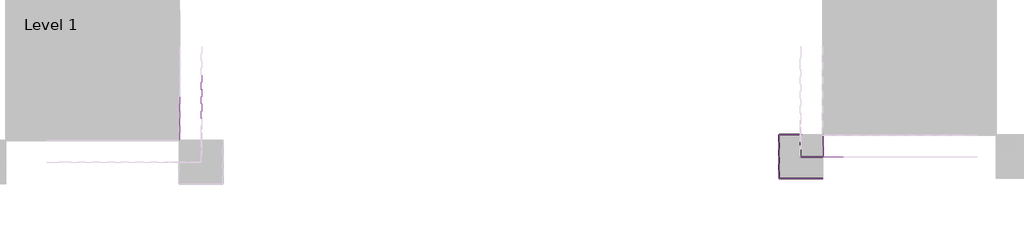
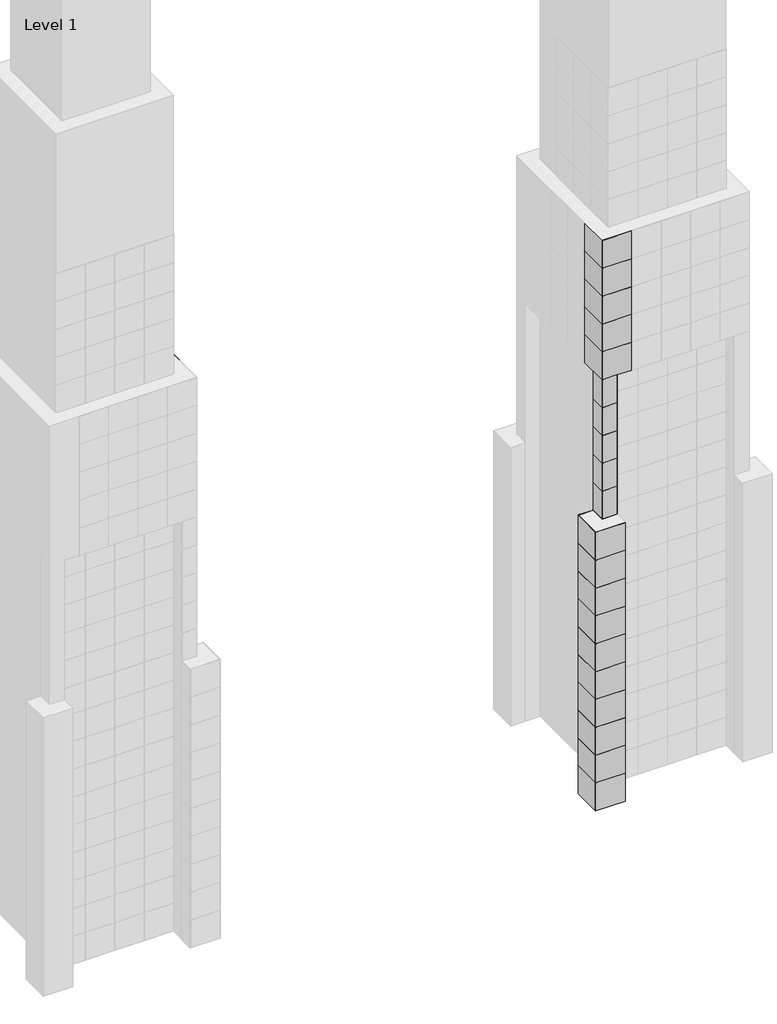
# One storey, part 4 of 15: 138 plates.
"""IFC4 building model written with IfcOpenShell, lengths in millimetres."""

from ifc_helpers import new_model, si_unit, origin, place, context, project, spatial, transform, mapped, element, save
from components import system_panel_glazed_9c75bc08, system_panel_glazed_0a0842ec, system_panel_glazed_aa64d645, system_panel_glazed_b248394d, system_panel_glazed_d5d3c74f

model = new_model("IFC4")

# Units and contexts
model_context = context("Model", 3, world=origin())
ifc_project = project(units=[si_unit("LENGTHUNIT", "METRE", prefix="MILLI")], contexts=[model_context])

# Site, building, storey
site = spatial("IfcSite", under=ifc_project)
building = spatial("IfcBuilding", under=site)
storey = spatial("IfcBuildingStorey", under=building, Name="Level 1", Elevation=0.0)

# Plates
placement = place(None, origin())
system_panel_glazed_shape = system_panel_glazed_9c75bc08(model_context)
element("IfcPlate", 1, ObjectType="System Panel : Glazed", at=placement, inside=storey, context=model_context, shape_type="MappedRepresentation", body=[
    mapped(system_panel_glazed_shape, transform((37356.2903978, -5364.9095598, 0.0), x_axis=(1.0, 0.0, 0.0), y_axis=(0.0, 1.0, 0.0), z_axis=(0.0, 0.0, 1.0))),
])
element("IfcPlate", 2, ObjectType="System Panel : Glazed", at=placement, inside=storey, context=model_context, shape_type="MappedRepresentation", body=[
    mapped(system_panel_glazed_shape, transform((37356.2903978, -5364.9095598, 3048.0), x_axis=(1.0, 0.0, 0.0), y_axis=(0.0, 1.0, 0.0), z_axis=(0.0, 0.0, 1.0))),
])
element("IfcPlate", 3, ObjectType="System Panel : Glazed", at=placement, inside=storey, context=model_context, shape_type="MappedRepresentation", body=[
    mapped(system_panel_glazed_shape, transform((37356.2903978, -5364.9095598, 6096.0), x_axis=(1.0, 0.0, 0.0), y_axis=(0.0, 1.0, 0.0), z_axis=(0.0, 0.0, 1.0))),
])
element("IfcPlate", 4, ObjectType="System Panel : Glazed", at=placement, inside=storey, context=model_context, shape_type="MappedRepresentation", body=[
    mapped(system_panel_glazed_shape, transform((37356.2903978, -5364.9095598, 9144.0), x_axis=(1.0, 0.0, 0.0), y_axis=(0.0, 1.0, 0.0), z_axis=(0.0, 0.0, 1.0))),
])
element("IfcPlate", 5, ObjectType="System Panel : Glazed", at=placement, inside=storey, context=model_context, shape_type="MappedRepresentation", body=[
    mapped(system_panel_glazed_shape, transform((37356.2903978, -5364.9095598, 12192.0), x_axis=(1.0, 0.0, 0.0), y_axis=(0.0, 1.0, 0.0), z_axis=(0.0, 0.0, 1.0))),
])
element("IfcPlate", 6, ObjectType="System Panel : Glazed", at=placement, inside=storey, context=model_context, shape_type="MappedRepresentation", body=[
    mapped(system_panel_glazed_shape, transform((37356.2903978, -5364.9095598, 15240.0), x_axis=(1.0, 0.0, 0.0), y_axis=(0.0, 1.0, 0.0), z_axis=(0.0, 0.0, 1.0))),
])
element("IfcPlate", 7, ObjectType="System Panel : Glazed", at=placement, inside=storey, context=model_context, shape_type="MappedRepresentation", body=[
    mapped(system_panel_glazed_shape, transform((37356.2903978, -5364.9095598, 18288.0), x_axis=(1.0, 0.0, 0.0), y_axis=(0.0, 1.0, 0.0), z_axis=(0.0, 0.0, 1.0))),
])
element("IfcPlate", 8, ObjectType="System Panel : Glazed", at=placement, inside=storey, context=model_context, shape_type="MappedRepresentation", body=[
    mapped(system_panel_glazed_shape, transform((37356.2903978, -5364.9095598, 21336.0), x_axis=(1.0, 0.0, 0.0), y_axis=(0.0, 1.0, 0.0), z_axis=(0.0, 0.0, 1.0))),
])
element("IfcPlate", 9, ObjectType="System Panel : Glazed", at=placement, inside=storey, context=model_context, shape_type="MappedRepresentation", body=[
    mapped(system_panel_glazed_shape, transform((37356.2903978, -5364.9095598, 24384.0), x_axis=(1.0, 0.0, 0.0), y_axis=(0.0, 1.0, 0.0), z_axis=(0.0, 0.0, 1.0))),
])
element("IfcPlate", 10, ObjectType="System Panel : Glazed", at=placement, inside=storey, context=model_context, shape_type="MappedRepresentation", body=[
    mapped(system_panel_glazed_shape, transform((37356.2903978, -5364.9095598, 27432.0), x_axis=(1.0, 0.0, 0.0), y_axis=(0.0, 1.0, 0.0), z_axis=(0.0, 0.0, 1.0))),
])
element("IfcPlate", 11, ObjectType="System Panel : Glazed", at=placement, inside=storey, context=model_context, shape_type="MappedRepresentation", body=[
    mapped(system_panel_glazed_shape, transform((37356.2903978, -5364.9095598, 30480.0), x_axis=(1.0, 0.0, 0.0), y_axis=(0.0, 1.0, 0.0), z_axis=(0.0, 0.0, 1.0))),
])
element("IfcPlate", 12, ObjectType="System Panel : Glazed", at=placement, inside=storey, context=model_context, shape_type="MappedRepresentation", body=[
    mapped(system_panel_glazed_shape, transform((37356.2903978, -5364.9095598, 33528.0), x_axis=(1.0, 0.0, 0.0), y_axis=(0.0, 1.0, 0.0), z_axis=(0.0, 0.0, 1.0))),
])
element("IfcPlate", 13, ObjectType="System Panel : Glazed", at=placement, inside=storey, context=model_context, shape_type="MappedRepresentation", body=[
    mapped(system_panel_glazed_shape, transform((37356.2903978, -5364.9095598, 36576.0), x_axis=(1.0, 0.0, 0.0), y_axis=(0.0, 1.0, 0.0), z_axis=(0.0, 0.0, 1.0))),
])
element("IfcPlate", 14, ObjectType="System Panel : Glazed", at=placement, inside=storey, context=model_context, shape_type="MappedRepresentation", body=[
    mapped(system_panel_glazed_shape, transform((37356.2903978, -5364.9095598, 39624.0), x_axis=(1.0, 0.0, 0.0), y_axis=(0.0, 1.0, 0.0), z_axis=(0.0, 0.0, 1.0))),
])
element("IfcPlate", 15, ObjectType="System Panel : Glazed", at=placement, inside=storey, context=model_context, shape_type="MappedRepresentation", body=[
    mapped(system_panel_glazed_shape, transform((37356.2903978, -5364.9095598, 42672.0), x_axis=(1.0, 0.0, 0.0), y_axis=(0.0, 1.0, 0.0), z_axis=(0.0, 0.0, 1.0))),
])
element("IfcPlate", 16, ObjectType="System Panel : Glazed", at=placement, inside=storey, context=model_context, shape_type="MappedRepresentation", body=[
    mapped(system_panel_glazed_shape, transform((36594.2903978, -4602.9095598, 0.0), x_axis=(0.0, -1.0, 0.0), y_axis=(1.0, 0.0, 0.0), z_axis=(0.0, 0.0, 1.0))),
])
element("IfcPlate", 17, ObjectType="System Panel : Glazed", at=placement, inside=storey, context=model_context, shape_type="MappedRepresentation", body=[
    mapped(system_panel_glazed_shape, transform((36594.2903978, -4602.9095598, 3048.0), x_axis=(0.0, -1.0, 0.0), y_axis=(1.0, 0.0, 0.0), z_axis=(0.0, 0.0, 1.0))),
])
element("IfcPlate", 18, ObjectType="System Panel : Glazed", at=placement, inside=storey, context=model_context, shape_type="MappedRepresentation", body=[
    mapped(system_panel_glazed_shape, transform((36594.2903978, -4602.9095598, 6096.0), x_axis=(0.0, -1.0, 0.0), y_axis=(1.0, 0.0, 0.0), z_axis=(0.0, 0.0, 1.0))),
])
element("IfcPlate", 19, ObjectType="System Panel : Glazed", at=placement, inside=storey, context=model_context, shape_type="MappedRepresentation", body=[
    mapped(system_panel_glazed_shape, transform((36594.2903978, -4602.9095598, 9144.0), x_axis=(0.0, -1.0, 0.0), y_axis=(1.0, 0.0, 0.0), z_axis=(0.0, 0.0, 1.0))),
])
element("IfcPlate", 20, ObjectType="System Panel : Glazed", at=placement, inside=storey, context=model_context, shape_type="MappedRepresentation", body=[
    mapped(system_panel_glazed_shape, transform((36594.2903978, -4602.9095598, 12192.0), x_axis=(0.0, -1.0, 0.0), y_axis=(1.0, 0.0, 0.0), z_axis=(0.0, 0.0, 1.0))),
])
element("IfcPlate", 21, ObjectType="System Panel : Glazed", at=placement, inside=storey, context=model_context, shape_type="MappedRepresentation", body=[
    mapped(system_panel_glazed_shape, transform((36594.2903978, -4602.9095598, 15240.0), x_axis=(0.0, -1.0, 0.0), y_axis=(1.0, 0.0, 0.0), z_axis=(0.0, 0.0, 1.0))),
])
element("IfcPlate", 22, ObjectType="System Panel : Glazed", at=placement, inside=storey, context=model_context, shape_type="MappedRepresentation", body=[
    mapped(system_panel_glazed_shape, transform((36594.2903978, -4602.9095598, 18288.0), x_axis=(0.0, -1.0, 0.0), y_axis=(1.0, 0.0, 0.0), z_axis=(0.0, 0.0, 1.0))),
])
element("IfcPlate", 23, ObjectType="System Panel : Glazed", at=placement, inside=storey, context=model_context, shape_type="MappedRepresentation", body=[
    mapped(system_panel_glazed_shape, transform((36594.2903978, -4602.9095598, 21336.0), x_axis=(0.0, -1.0, 0.0), y_axis=(1.0, 0.0, 0.0), z_axis=(0.0, 0.0, 1.0))),
])
element("IfcPlate", 24, ObjectType="System Panel : Glazed", at=placement, inside=storey, context=model_context, shape_type="MappedRepresentation", body=[
    mapped(system_panel_glazed_shape, transform((36594.2903978, -4602.9095598, 24384.0), x_axis=(0.0, -1.0, 0.0), y_axis=(1.0, 0.0, 0.0), z_axis=(0.0, 0.0, 1.0))),
])
element("IfcPlate", 25, ObjectType="System Panel : Glazed", at=placement, inside=storey, context=model_context, shape_type="MappedRepresentation", body=[
    mapped(system_panel_glazed_shape, transform((36594.2903978, -4602.9095598, 27432.0), x_axis=(0.0, -1.0, 0.0), y_axis=(1.0, 0.0, 0.0), z_axis=(0.0, 0.0, 1.0))),
])
element("IfcPlate", 26, ObjectType="System Panel : Glazed", at=placement, inside=storey, context=model_context, shape_type="MappedRepresentation", body=[
    mapped(system_panel_glazed_shape, transform((36594.2903978, -4602.9095598, 30480.0), x_axis=(0.0, -1.0, 0.0), y_axis=(1.0, 0.0, 0.0), z_axis=(0.0, 0.0, 1.0))),
])
element("IfcPlate", 27, ObjectType="System Panel : Glazed", at=placement, inside=storey, context=model_context, shape_type="MappedRepresentation", body=[
    mapped(system_panel_glazed_shape, transform((36594.2903978, -4602.9095598, 33528.0), x_axis=(0.0, -1.0, 0.0), y_axis=(1.0, 0.0, 0.0), z_axis=(0.0, 0.0, 1.0))),
])
element("IfcPlate", 28, ObjectType="System Panel : Glazed", at=placement, inside=storey, context=model_context, shape_type="MappedRepresentation", body=[
    mapped(system_panel_glazed_shape, transform((36594.2903978, -4602.9095598, 36576.0), x_axis=(0.0, -1.0, 0.0), y_axis=(1.0, 0.0, 0.0), z_axis=(0.0, 0.0, 1.0))),
])
element("IfcPlate", 29, ObjectType="System Panel : Glazed", at=placement, inside=storey, context=model_context, shape_type="MappedRepresentation", body=[
    mapped(system_panel_glazed_shape, transform((36594.2903978, -4602.9095598, 39624.0), x_axis=(0.0, -1.0, 0.0), y_axis=(1.0, 0.0, 0.0), z_axis=(0.0, 0.0, 1.0))),
])
element("IfcPlate", 30, ObjectType="System Panel : Glazed", at=placement, inside=storey, context=model_context, shape_type="MappedRepresentation", body=[
    mapped(system_panel_glazed_shape, transform((36594.2903978, -4602.9095598, 42672.0), x_axis=(0.0, -1.0, 0.0), y_axis=(1.0, 0.0, 0.0), z_axis=(0.0, 0.0, 1.0))),
])
element("IfcPlate", 31, ObjectType="System Panel : Glazed", at=placement, inside=storey, context=model_context, shape_type="MappedRepresentation", body=[
    mapped(system_panel_glazed_shape, transform((36594.2903978, -4602.9095598, 0.0), x_axis=(0.0, -1.0, 0.0), y_axis=(1.0, 0.0, 0.0), z_axis=(0.0, 0.0, 1.0))),
])
element("IfcPlate", 32, ObjectType="System Panel : Glazed", at=placement, inside=storey, context=model_context, shape_type="MappedRepresentation", body=[
    mapped(system_panel_glazed_shape, transform((36594.2903978, -4602.9095598, 3048.0), x_axis=(0.0, -1.0, 0.0), y_axis=(1.0, 0.0, 0.0), z_axis=(0.0, 0.0, 1.0))),
])
element("IfcPlate", 33, ObjectType="System Panel : Glazed", at=placement, inside=storey, context=model_context, shape_type="MappedRepresentation", body=[
    mapped(system_panel_glazed_shape, transform((36594.2903978, -4602.9095598, 6096.0), x_axis=(0.0, -1.0, 0.0), y_axis=(1.0, 0.0, 0.0), z_axis=(0.0, 0.0, 1.0))),
])
element("IfcPlate", 34, ObjectType="System Panel : Glazed", at=placement, inside=storey, context=model_context, shape_type="MappedRepresentation", body=[
    mapped(system_panel_glazed_shape, transform((36594.2903978, -4602.9095598, 9144.0), x_axis=(0.0, -1.0, 0.0), y_axis=(1.0, 0.0, 0.0), z_axis=(0.0, 0.0, 1.0))),
])
element("IfcPlate", 35, ObjectType="System Panel : Glazed", at=placement, inside=storey, context=model_context, shape_type="MappedRepresentation", body=[
    mapped(system_panel_glazed_shape, transform((36594.2903978, -4602.9095598, 12192.0), x_axis=(0.0, -1.0, 0.0), y_axis=(1.0, 0.0, 0.0), z_axis=(0.0, 0.0, 1.0))),
])
element("IfcPlate", 36, ObjectType="System Panel : Glazed", at=placement, inside=storey, context=model_context, shape_type="MappedRepresentation", body=[
    mapped(system_panel_glazed_shape, transform((36594.2903978, -4602.9095598, 15240.0), x_axis=(0.0, -1.0, 0.0), y_axis=(1.0, 0.0, 0.0), z_axis=(0.0, 0.0, 1.0))),
])
element("IfcPlate", 37, ObjectType="System Panel : Glazed", at=placement, inside=storey, context=model_context, shape_type="MappedRepresentation", body=[
    mapped(system_panel_glazed_shape, transform((36594.2903978, -4602.9095598, 18288.0), x_axis=(0.0, -1.0, 0.0), y_axis=(1.0, 0.0, 0.0), z_axis=(0.0, 0.0, 1.0))),
])
element("IfcPlate", 38, ObjectType="System Panel : Glazed", at=placement, inside=storey, context=model_context, shape_type="MappedRepresentation", body=[
    mapped(system_panel_glazed_shape, transform((36594.2903978, -4602.9095598, 21336.0), x_axis=(0.0, -1.0, 0.0), y_axis=(1.0, 0.0, 0.0), z_axis=(0.0, 0.0, 1.0))),
])
element("IfcPlate", 39, ObjectType="System Panel : Glazed", at=placement, inside=storey, context=model_context, shape_type="MappedRepresentation", body=[
    mapped(system_panel_glazed_shape, transform((36594.2903978, -4602.9095598, 24384.0), x_axis=(0.0, -1.0, 0.0), y_axis=(1.0, 0.0, 0.0), z_axis=(0.0, 0.0, 1.0))),
])
element("IfcPlate", 40, ObjectType="System Panel : Glazed", at=placement, inside=storey, context=model_context, shape_type="MappedRepresentation", body=[
    mapped(system_panel_glazed_shape, transform((36594.2903978, -4602.9095598, 27432.0), x_axis=(0.0, -1.0, 0.0), y_axis=(1.0, 0.0, 0.0), z_axis=(0.0, 0.0, 1.0))),
])
element("IfcPlate", 41, ObjectType="System Panel : Glazed", at=placement, inside=storey, context=model_context, shape_type="MappedRepresentation", body=[
    mapped(system_panel_glazed_shape, transform((36594.2903978, -4602.9095598, 30480.0), x_axis=(0.0, -1.0, 0.0), y_axis=(1.0, 0.0, 0.0), z_axis=(0.0, 0.0, 1.0))),
])
element("IfcPlate", 42, ObjectType="System Panel : Glazed", at=placement, inside=storey, context=model_context, shape_type="MappedRepresentation", body=[
    mapped(system_panel_glazed_shape, transform((36594.2903978, -4602.9095598, 33528.0), x_axis=(0.0, -1.0, 0.0), y_axis=(1.0, 0.0, 0.0), z_axis=(0.0, 0.0, 1.0))),
])
element("IfcPlate", 43, ObjectType="System Panel : Glazed", at=placement, inside=storey, context=model_context, shape_type="MappedRepresentation", body=[
    mapped(system_panel_glazed_shape, transform((36594.2903978, -4602.9095598, 36576.0), x_axis=(0.0, -1.0, 0.0), y_axis=(1.0, 0.0, 0.0), z_axis=(0.0, 0.0, 1.0))),
])
element("IfcPlate", 44, ObjectType="System Panel : Glazed", at=placement, inside=storey, context=model_context, shape_type="MappedRepresentation", body=[
    mapped(system_panel_glazed_shape, transform((36594.2903978, -4602.9095598, 39624.0), x_axis=(0.0, -1.0, 0.0), y_axis=(1.0, 0.0, 0.0), z_axis=(0.0, 0.0, 1.0))),
])
element("IfcPlate", 45, ObjectType="System Panel : Glazed", at=placement, inside=storey, context=model_context, shape_type="MappedRepresentation", body=[
    mapped(system_panel_glazed_shape, transform((36594.2903978, -4602.9095598, 42672.0), x_axis=(0.0, -1.0, 0.0), y_axis=(1.0, 0.0, 0.0), z_axis=(0.0, 0.0, 1.0))),
])
element("IfcPlate", 46, ObjectType="System Panel : Glazed", at=placement, inside=storey, context=model_context, shape_type="MappedRepresentation", body=[
    mapped(system_panel_glazed_shape, transform((35832.2903978, -3840.9095598, 0.0), x_axis=(-1.0, 0.0, 0.0), y_axis=(0.0, -1.0, 0.0), z_axis=(0.0, 0.0, 1.0))),
])
element("IfcPlate", 47, ObjectType="System Panel : Glazed", at=placement, inside=storey, context=model_context, shape_type="MappedRepresentation", body=[
    mapped(system_panel_glazed_shape, transform((35832.2903978, -3840.9095598, 3048.0), x_axis=(-1.0, 0.0, 0.0), y_axis=(0.0, -1.0, 0.0), z_axis=(0.0, 0.0, 1.0))),
])
element("IfcPlate", 48, ObjectType="System Panel : Glazed", at=placement, inside=storey, context=model_context, shape_type="MappedRepresentation", body=[
    mapped(system_panel_glazed_shape, transform((35832.2903978, -3840.9095598, 6096.0), x_axis=(-1.0, 0.0, 0.0), y_axis=(0.0, -1.0, 0.0), z_axis=(0.0, 0.0, 1.0))),
])
element("IfcPlate", 49, ObjectType="System Panel : Glazed", at=placement, inside=storey, context=model_context, shape_type="MappedRepresentation", body=[
    mapped(system_panel_glazed_shape, transform((35832.2903978, -3840.9095598, 9144.0), x_axis=(-1.0, 0.0, 0.0), y_axis=(0.0, -1.0, 0.0), z_axis=(0.0, 0.0, 1.0))),
])
element("IfcPlate", 50, ObjectType="System Panel : Glazed", at=placement, inside=storey, context=model_context, shape_type="MappedRepresentation", body=[
    mapped(system_panel_glazed_shape, transform((35832.2903978, -3840.9095598, 12192.0), x_axis=(-1.0, 0.0, 0.0), y_axis=(0.0, -1.0, 0.0), z_axis=(0.0, 0.0, 1.0))),
])
element("IfcPlate", 51, ObjectType="System Panel : Glazed", at=placement, inside=storey, context=model_context, shape_type="MappedRepresentation", body=[
    mapped(system_panel_glazed_shape, transform((35832.2903978, -3840.9095598, 15240.0), x_axis=(-1.0, 0.0, 0.0), y_axis=(0.0, -1.0, 0.0), z_axis=(0.0, 0.0, 1.0))),
])
element("IfcPlate", 52, ObjectType="System Panel : Glazed", at=placement, inside=storey, context=model_context, shape_type="MappedRepresentation", body=[
    mapped(system_panel_glazed_shape, transform((35832.2903978, -3840.9095598, 18288.0), x_axis=(-1.0, 0.0, 0.0), y_axis=(0.0, -1.0, 0.0), z_axis=(0.0, 0.0, 1.0))),
])
element("IfcPlate", 53, ObjectType="System Panel : Glazed", at=placement, inside=storey, context=model_context, shape_type="MappedRepresentation", body=[
    mapped(system_panel_glazed_shape, transform((35832.2903978, -3840.9095598, 21336.0), x_axis=(-1.0, 0.0, 0.0), y_axis=(0.0, -1.0, 0.0), z_axis=(0.0, 0.0, 1.0))),
])
element("IfcPlate", 54, ObjectType="System Panel : Glazed", at=placement, inside=storey, context=model_context, shape_type="MappedRepresentation", body=[
    mapped(system_panel_glazed_shape, transform((35832.2903978, -3840.9095598, 24384.0), x_axis=(-1.0, 0.0, 0.0), y_axis=(0.0, -1.0, 0.0), z_axis=(0.0, 0.0, 1.0))),
])
element("IfcPlate", 55, ObjectType="System Panel : Glazed", at=placement, inside=storey, context=model_context, shape_type="MappedRepresentation", body=[
    mapped(system_panel_glazed_shape, transform((35832.2903978, -3840.9095598, 27432.0), x_axis=(-1.0, 0.0, 0.0), y_axis=(0.0, -1.0, 0.0), z_axis=(0.0, 0.0, 1.0))),
])
system_panel_glazed_2_shape = system_panel_glazed_0a0842ec(model_context)
element("IfcPlate", 56, ObjectType="System Panel : Glazed", at=placement, inside=storey, context=model_context, shape_type="MappedRepresentation", body=[
    mapped(system_panel_glazed_2_shape, transform((38118.2903978, -5364.9095598, 45720.0), x_axis=(1.0, 0.0, 0.0), y_axis=(0.0, 1.0, 0.0), z_axis=(0.0, 0.0, 1.0))),
])
element("IfcPlate", 57, ObjectType="System Panel : Glazed", at=placement, inside=storey, context=model_context, shape_type="MappedRepresentation", body=[
    mapped(system_panel_glazed_2_shape, transform((36594.2903978, -3840.9095598, 45720.0), x_axis=(0.0, -1.0, 0.0), y_axis=(1.0, 0.0, 0.0), z_axis=(0.0, 0.0, 1.0))),
])
system_panel_glazed_3_shape = system_panel_glazed_aa64d645(model_context)
element("IfcPlate", 58, ObjectType="System Panel : Glazed", at=placement, inside=storey, context=model_context, shape_type="MappedRepresentation", body=[
    mapped(system_panel_glazed_3_shape, transform((-5599.4161695, -1170.0504489, 45720.0), x_axis=(0.0, 1.0, 0.0), y_axis=(-1.0, 0.0, 0.0), z_axis=(0.0, 0.0, 1.0))),
])
element("IfcPlate", 59, ObjectType="System Panel : Glazed", at=placement, inside=storey, context=model_context, shape_type="MappedRepresentation", body=[
    mapped(system_panel_glazed_3_shape, transform((-5599.4161695, -1170.0504489, 48768.0), x_axis=(0.0, 1.0, 0.0), y_axis=(-1.0, 0.0, 0.0), z_axis=(0.0, 0.0, 1.0))),
])
element("IfcPlate", 60, ObjectType="System Panel : Glazed", at=placement, inside=storey, context=model_context, shape_type="MappedRepresentation", body=[
    mapped(system_panel_glazed_3_shape, transform((-5599.4161695, -1170.0504489, 51816.0), x_axis=(0.0, 1.0, 0.0), y_axis=(-1.0, 0.0, 0.0), z_axis=(0.0, 0.0, 1.0))),
])
element("IfcPlate", 61, ObjectType="System Panel : Glazed", at=placement, inside=storey, context=model_context, shape_type="MappedRepresentation", body=[
    mapped(system_panel_glazed_3_shape, transform((-5599.4161695, -1170.0504489, 54864.0), x_axis=(0.0, 1.0, 0.0), y_axis=(-1.0, 0.0, 0.0), z_axis=(0.0, 0.0, 1.0))),
])
element("IfcPlate", 62, ObjectType="System Panel : Glazed", at=placement, inside=storey, context=model_context, shape_type="MappedRepresentation", body=[
    mapped(system_panel_glazed_3_shape, transform((-5599.4161695, -1170.0504489, 57912.0), x_axis=(0.0, 1.0, 0.0), y_axis=(-1.0, 0.0, 0.0), z_axis=(0.0, 0.0, 1.0))),
])
element("IfcPlate", 63, ObjectType="System Panel : Glazed", at=placement, inside=storey, context=model_context, shape_type="MappedRepresentation", body=[
    mapped(system_panel_glazed_3_shape, transform((38118.2903978, -5364.9095598, 48768.0), x_axis=(1.0, 0.0, 0.0), y_axis=(0.0, 1.0, 0.0), z_axis=(0.0, 0.0, 1.0))),
])
element("IfcPlate", 64, ObjectType="System Panel : Glazed", at=placement, inside=storey, context=model_context, shape_type="MappedRepresentation", body=[
    mapped(system_panel_glazed_3_shape, transform((38118.2903978, -5364.9095598, 51816.0), x_axis=(1.0, 0.0, 0.0), y_axis=(0.0, 1.0, 0.0), z_axis=(0.0, 0.0, 1.0))),
])
element("IfcPlate", 65, ObjectType="System Panel : Glazed", at=placement, inside=storey, context=model_context, shape_type="MappedRepresentation", body=[
    mapped(system_panel_glazed_3_shape, transform((38118.2903978, -5364.9095598, 54864.0), x_axis=(1.0, 0.0, 0.0), y_axis=(0.0, 1.0, 0.0), z_axis=(0.0, 0.0, 1.0))),
])
element("IfcPlate", 66, ObjectType="System Panel : Glazed", at=placement, inside=storey, context=model_context, shape_type="MappedRepresentation", body=[
    mapped(system_panel_glazed_3_shape, transform((38118.2903978, -5364.9095598, 57912.0), x_axis=(1.0, 0.0, 0.0), y_axis=(0.0, 1.0, 0.0), z_axis=(0.0, 0.0, 1.0))),
])
element("IfcPlate", 67, ObjectType="System Panel : Glazed", at=placement, inside=storey, context=model_context, shape_type="MappedRepresentation", body=[
    mapped(system_panel_glazed_3_shape, transform((36594.2903978, -3840.9095598, 48768.0), x_axis=(0.0, -1.0, 0.0), y_axis=(1.0, 0.0, 0.0), z_axis=(0.0, 0.0, 1.0))),
])
element("IfcPlate", 68, ObjectType="System Panel : Glazed", at=placement, inside=storey, context=model_context, shape_type="MappedRepresentation", body=[
    mapped(system_panel_glazed_3_shape, transform((36594.2903978, -3840.9095598, 51816.0), x_axis=(0.0, -1.0, 0.0), y_axis=(1.0, 0.0, 0.0), z_axis=(0.0, 0.0, 1.0))),
])
element("IfcPlate", 69, ObjectType="System Panel : Glazed", at=placement, inside=storey, context=model_context, shape_type="MappedRepresentation", body=[
    mapped(system_panel_glazed_3_shape, transform((36594.2903978, -3840.9095598, 54864.0), x_axis=(0.0, -1.0, 0.0), y_axis=(1.0, 0.0, 0.0), z_axis=(0.0, 0.0, 1.0))),
])
element("IfcPlate", 70, ObjectType="System Panel : Glazed", at=placement, inside=storey, context=model_context, shape_type="MappedRepresentation", body=[
    mapped(system_panel_glazed_3_shape, transform((36594.2903978, -3840.9095598, 57912.0), x_axis=(0.0, -1.0, 0.0), y_axis=(1.0, 0.0, 0.0), z_axis=(0.0, 0.0, 1.0))),
])
element("IfcPlate", 71, ObjectType="System Panel : Glazed", at=placement, inside=storey, context=model_context, shape_type="MappedRepresentation", body=[
    mapped(system_panel_glazed_3_shape, transform((36594.2903978, -6888.9095598, 0.0), x_axis=(1.0, 0.0, 0.0), y_axis=(0.0, 1.0, 0.0), z_axis=(0.0, 0.0, 1.0))),
])
element("IfcPlate", 72, ObjectType="System Panel : Glazed", at=placement, inside=storey, context=model_context, shape_type="MappedRepresentation", body=[
    mapped(system_panel_glazed_3_shape, transform((36594.2903978, -6888.9095598, 3048.0), x_axis=(1.0, 0.0, 0.0), y_axis=(0.0, 1.0, 0.0), z_axis=(0.0, 0.0, 1.0))),
])
element("IfcPlate", 73, ObjectType="System Panel : Glazed", at=placement, inside=storey, context=model_context, shape_type="MappedRepresentation", body=[
    mapped(system_panel_glazed_3_shape, transform((36594.2903978, -6888.9095598, 6096.0), x_axis=(1.0, 0.0, 0.0), y_axis=(0.0, 1.0, 0.0), z_axis=(0.0, 0.0, 1.0))),
])
element("IfcPlate", 74, ObjectType="System Panel : Glazed", at=placement, inside=storey, context=model_context, shape_type="MappedRepresentation", body=[
    mapped(system_panel_glazed_3_shape, transform((36594.2903978, -6888.9095598, 9144.0), x_axis=(1.0, 0.0, 0.0), y_axis=(0.0, 1.0, 0.0), z_axis=(0.0, 0.0, 1.0))),
])
element("IfcPlate", 75, ObjectType="System Panel : Glazed", at=placement, inside=storey, context=model_context, shape_type="MappedRepresentation", body=[
    mapped(system_panel_glazed_3_shape, transform((36594.2903978, -6888.9095598, 12192.0), x_axis=(1.0, 0.0, 0.0), y_axis=(0.0, 1.0, 0.0), z_axis=(0.0, 0.0, 1.0))),
])
element("IfcPlate", 76, ObjectType="System Panel : Glazed", at=placement, inside=storey, context=model_context, shape_type="MappedRepresentation", body=[
    mapped(system_panel_glazed_3_shape, transform((36594.2903978, -6888.9095598, 15240.0), x_axis=(1.0, 0.0, 0.0), y_axis=(0.0, 1.0, 0.0), z_axis=(0.0, 0.0, 1.0))),
])
element("IfcPlate", 77, ObjectType="System Panel : Glazed", at=placement, inside=storey, context=model_context, shape_type="MappedRepresentation", body=[
    mapped(system_panel_glazed_3_shape, transform((36594.2903978, -6888.9095598, 18288.0), x_axis=(1.0, 0.0, 0.0), y_axis=(0.0, 1.0, 0.0), z_axis=(0.0, 0.0, 1.0))),
])
element("IfcPlate", 78, ObjectType="System Panel : Glazed", at=placement, inside=storey, context=model_context, shape_type="MappedRepresentation", body=[
    mapped(system_panel_glazed_3_shape, transform((36594.2903978, -6888.9095598, 21336.0), x_axis=(1.0, 0.0, 0.0), y_axis=(0.0, 1.0, 0.0), z_axis=(0.0, 0.0, 1.0))),
])
element("IfcPlate", 79, ObjectType="System Panel : Glazed", at=placement, inside=storey, context=model_context, shape_type="MappedRepresentation", body=[
    mapped(system_panel_glazed_3_shape, transform((36594.2903978, -6888.9095598, 24384.0), x_axis=(1.0, 0.0, 0.0), y_axis=(0.0, 1.0, 0.0), z_axis=(0.0, 0.0, 1.0))),
])
element("IfcPlate", 80, ObjectType="System Panel : Glazed", at=placement, inside=storey, context=model_context, shape_type="MappedRepresentation", body=[
    mapped(system_panel_glazed_3_shape, transform((36594.2903978, -6888.9095598, 27432.0), x_axis=(1.0, 0.0, 0.0), y_axis=(0.0, 1.0, 0.0), z_axis=(0.0, 0.0, 1.0))),
])
element("IfcPlate", 81, ObjectType="System Panel : Glazed", at=placement, inside=storey, context=model_context, shape_type="MappedRepresentation", body=[
    mapped(system_panel_glazed_3_shape, transform((35070.2903978, -5364.9095598, 0.0), x_axis=(0.0, -1.0, 0.0), y_axis=(1.0, 0.0, 0.0), z_axis=(0.0, 0.0, 1.0))),
])
element("IfcPlate", 82, ObjectType="System Panel : Glazed", at=placement, inside=storey, context=model_context, shape_type="MappedRepresentation", body=[
    mapped(system_panel_glazed_3_shape, transform((35070.2903978, -5364.9095598, 3048.0), x_axis=(0.0, -1.0, 0.0), y_axis=(1.0, 0.0, 0.0), z_axis=(0.0, 0.0, 1.0))),
])
element("IfcPlate", 83, ObjectType="System Panel : Glazed", at=placement, inside=storey, context=model_context, shape_type="MappedRepresentation", body=[
    mapped(system_panel_glazed_3_shape, transform((35070.2903978, -5364.9095598, 6096.0), x_axis=(0.0, -1.0, 0.0), y_axis=(1.0, 0.0, 0.0), z_axis=(0.0, 0.0, 1.0))),
])
element("IfcPlate", 84, ObjectType="System Panel : Glazed", at=placement, inside=storey, context=model_context, shape_type="MappedRepresentation", body=[
    mapped(system_panel_glazed_3_shape, transform((35070.2903978, -5364.9095598, 9144.0), x_axis=(0.0, -1.0, 0.0), y_axis=(1.0, 0.0, 0.0), z_axis=(0.0, 0.0, 1.0))),
])
element("IfcPlate", 85, ObjectType="System Panel : Glazed", at=placement, inside=storey, context=model_context, shape_type="MappedRepresentation", body=[
    mapped(system_panel_glazed_3_shape, transform((35070.2903978, -5364.9095598, 12192.0), x_axis=(0.0, -1.0, 0.0), y_axis=(1.0, 0.0, 0.0), z_axis=(0.0, 0.0, 1.0))),
])
element("IfcPlate", 86, ObjectType="System Panel : Glazed", at=placement, inside=storey, context=model_context, shape_type="MappedRepresentation", body=[
    mapped(system_panel_glazed_3_shape, transform((35070.2903978, -5364.9095598, 15240.0), x_axis=(0.0, -1.0, 0.0), y_axis=(1.0, 0.0, 0.0), z_axis=(0.0, 0.0, 1.0))),
])
element("IfcPlate", 87, ObjectType="System Panel : Glazed", at=placement, inside=storey, context=model_context, shape_type="MappedRepresentation", body=[
    mapped(system_panel_glazed_3_shape, transform((35070.2903978, -5364.9095598, 18288.0), x_axis=(0.0, -1.0, 0.0), y_axis=(1.0, 0.0, 0.0), z_axis=(0.0, 0.0, 1.0))),
])
element("IfcPlate", 88, ObjectType="System Panel : Glazed", at=placement, inside=storey, context=model_context, shape_type="MappedRepresentation", body=[
    mapped(system_panel_glazed_3_shape, transform((35070.2903978, -5364.9095598, 21336.0), x_axis=(0.0, -1.0, 0.0), y_axis=(1.0, 0.0, 0.0), z_axis=(0.0, 0.0, 1.0))),
])
element("IfcPlate", 89, ObjectType="System Panel : Glazed", at=placement, inside=storey, context=model_context, shape_type="MappedRepresentation", body=[
    mapped(system_panel_glazed_3_shape, transform((35070.2903978, -5364.9095598, 24384.0), x_axis=(0.0, -1.0, 0.0), y_axis=(1.0, 0.0, 0.0), z_axis=(0.0, 0.0, 1.0))),
])
element("IfcPlate", 90, ObjectType="System Panel : Glazed", at=placement, inside=storey, context=model_context, shape_type="MappedRepresentation", body=[
    mapped(system_panel_glazed_3_shape, transform((35070.2903978, -5364.9095598, 27432.0), x_axis=(0.0, -1.0, 0.0), y_axis=(1.0, 0.0, 0.0), z_axis=(0.0, 0.0, 1.0))),
])
element("IfcPlate", 91, ObjectType="System Panel : Glazed", at=placement, inside=storey, context=model_context, shape_type="MappedRepresentation", body=[
    mapped(system_panel_glazed_3_shape, transform((35070.2903978, -5364.9095598, 0.0), x_axis=(0.0, -1.0, 0.0), y_axis=(1.0, 0.0, 0.0), z_axis=(0.0, 0.0, 1.0))),
])
element("IfcPlate", 92, ObjectType="System Panel : Glazed", at=placement, inside=storey, context=model_context, shape_type="MappedRepresentation", body=[
    mapped(system_panel_glazed_3_shape, transform((35070.2903978, -5364.9095598, 3048.0), x_axis=(0.0, -1.0, 0.0), y_axis=(1.0, 0.0, 0.0), z_axis=(0.0, 0.0, 1.0))),
])
element("IfcPlate", 93, ObjectType="System Panel : Glazed", at=placement, inside=storey, context=model_context, shape_type="MappedRepresentation", body=[
    mapped(system_panel_glazed_3_shape, transform((35070.2903978, -5364.9095598, 6096.0), x_axis=(0.0, -1.0, 0.0), y_axis=(1.0, 0.0, 0.0), z_axis=(0.0, 0.0, 1.0))),
])
element("IfcPlate", 94, ObjectType="System Panel : Glazed", at=placement, inside=storey, context=model_context, shape_type="MappedRepresentation", body=[
    mapped(system_panel_glazed_3_shape, transform((35070.2903978, -5364.9095598, 9144.0), x_axis=(0.0, -1.0, 0.0), y_axis=(1.0, 0.0, 0.0), z_axis=(0.0, 0.0, 1.0))),
])
element("IfcPlate", 95, ObjectType="System Panel : Glazed", at=placement, inside=storey, context=model_context, shape_type="MappedRepresentation", body=[
    mapped(system_panel_glazed_3_shape, transform((35070.2903978, -5364.9095598, 12192.0), x_axis=(0.0, -1.0, 0.0), y_axis=(1.0, 0.0, 0.0), z_axis=(0.0, 0.0, 1.0))),
])
element("IfcPlate", 96, ObjectType="System Panel : Glazed", at=placement, inside=storey, context=model_context, shape_type="MappedRepresentation", body=[
    mapped(system_panel_glazed_3_shape, transform((35070.2903978, -5364.9095598, 15240.0), x_axis=(0.0, -1.0, 0.0), y_axis=(1.0, 0.0, 0.0), z_axis=(0.0, 0.0, 1.0))),
])
element("IfcPlate", 97, ObjectType="System Panel : Glazed", at=placement, inside=storey, context=model_context, shape_type="MappedRepresentation", body=[
    mapped(system_panel_glazed_3_shape, transform((35070.2903978, -5364.9095598, 18288.0), x_axis=(0.0, -1.0, 0.0), y_axis=(1.0, 0.0, 0.0), z_axis=(0.0, 0.0, 1.0))),
])
element("IfcPlate", 98, ObjectType="System Panel : Glazed", at=placement, inside=storey, context=model_context, shape_type="MappedRepresentation", body=[
    mapped(system_panel_glazed_3_shape, transform((35070.2903978, -5364.9095598, 21336.0), x_axis=(0.0, -1.0, 0.0), y_axis=(1.0, 0.0, 0.0), z_axis=(0.0, 0.0, 1.0))),
])
element("IfcPlate", 99, ObjectType="System Panel : Glazed", at=placement, inside=storey, context=model_context, shape_type="MappedRepresentation", body=[
    mapped(system_panel_glazed_3_shape, transform((35070.2903978, -5364.9095598, 24384.0), x_axis=(0.0, -1.0, 0.0), y_axis=(1.0, 0.0, 0.0), z_axis=(0.0, 0.0, 1.0))),
])
element("IfcPlate", 100, ObjectType="System Panel : Glazed", at=placement, inside=storey, context=model_context, shape_type="MappedRepresentation", body=[
    mapped(system_panel_glazed_3_shape, transform((35070.2903978, -5364.9095598, 27432.0), x_axis=(0.0, -1.0, 0.0), y_axis=(1.0, 0.0, 0.0), z_axis=(0.0, 0.0, 1.0))),
])
element("IfcPlate", 101, ObjectType="System Panel : Glazed", at=placement, inside=storey, context=model_context, shape_type="MappedRepresentation", body=[
    mapped(system_panel_glazed_3_shape, transform((35070.2903978, -5364.9095598, 0.0), x_axis=(0.0, -1.0, 0.0), y_axis=(1.0, 0.0, 0.0), z_axis=(0.0, 0.0, 1.0))),
])
element("IfcPlate", 102, ObjectType="System Panel : Glazed", at=placement, inside=storey, context=model_context, shape_type="MappedRepresentation", body=[
    mapped(system_panel_glazed_3_shape, transform((35070.2903978, -5364.9095598, 3048.0), x_axis=(0.0, -1.0, 0.0), y_axis=(1.0, 0.0, 0.0), z_axis=(0.0, 0.0, 1.0))),
])
element("IfcPlate", 103, ObjectType="System Panel : Glazed", at=placement, inside=storey, context=model_context, shape_type="MappedRepresentation", body=[
    mapped(system_panel_glazed_3_shape, transform((35070.2903978, -5364.9095598, 6096.0), x_axis=(0.0, -1.0, 0.0), y_axis=(1.0, 0.0, 0.0), z_axis=(0.0, 0.0, 1.0))),
])
element("IfcPlate", 104, ObjectType="System Panel : Glazed", at=placement, inside=storey, context=model_context, shape_type="MappedRepresentation", body=[
    mapped(system_panel_glazed_3_shape, transform((35070.2903978, -5364.9095598, 9144.0), x_axis=(0.0, -1.0, 0.0), y_axis=(1.0, 0.0, 0.0), z_axis=(0.0, 0.0, 1.0))),
])
element("IfcPlate", 105, ObjectType="System Panel : Glazed", at=placement, inside=storey, context=model_context, shape_type="MappedRepresentation", body=[
    mapped(system_panel_glazed_3_shape, transform((35070.2903978, -5364.9095598, 12192.0), x_axis=(0.0, -1.0, 0.0), y_axis=(1.0, 0.0, 0.0), z_axis=(0.0, 0.0, 1.0))),
])
element("IfcPlate", 106, ObjectType="System Panel : Glazed", at=placement, inside=storey, context=model_context, shape_type="MappedRepresentation", body=[
    mapped(system_panel_glazed_3_shape, transform((35070.2903978, -5364.9095598, 15240.0), x_axis=(0.0, -1.0, 0.0), y_axis=(1.0, 0.0, 0.0), z_axis=(0.0, 0.0, 1.0))),
])
element("IfcPlate", 107, ObjectType="System Panel : Glazed", at=placement, inside=storey, context=model_context, shape_type="MappedRepresentation", body=[
    mapped(system_panel_glazed_3_shape, transform((35070.2903978, -5364.9095598, 18288.0), x_axis=(0.0, -1.0, 0.0), y_axis=(1.0, 0.0, 0.0), z_axis=(0.0, 0.0, 1.0))),
])
element("IfcPlate", 108, ObjectType="System Panel : Glazed", at=placement, inside=storey, context=model_context, shape_type="MappedRepresentation", body=[
    mapped(system_panel_glazed_3_shape, transform((35070.2903978, -5364.9095598, 21336.0), x_axis=(0.0, -1.0, 0.0), y_axis=(1.0, 0.0, 0.0), z_axis=(0.0, 0.0, 1.0))),
])
element("IfcPlate", 109, ObjectType="System Panel : Glazed", at=placement, inside=storey, context=model_context, shape_type="MappedRepresentation", body=[
    mapped(system_panel_glazed_3_shape, transform((35070.2903978, -5364.9095598, 24384.0), x_axis=(0.0, -1.0, 0.0), y_axis=(1.0, 0.0, 0.0), z_axis=(0.0, 0.0, 1.0))),
])
element("IfcPlate", 110, ObjectType="System Panel : Glazed", at=placement, inside=storey, context=model_context, shape_type="MappedRepresentation", body=[
    mapped(system_panel_glazed_3_shape, transform((35070.2903978, -5364.9095598, 27432.0), x_axis=(0.0, -1.0, 0.0), y_axis=(1.0, 0.0, 0.0), z_axis=(0.0, 0.0, 1.0))),
])
element("IfcPlate", 111, ObjectType="System Panel : Glazed", at=placement, inside=storey, context=model_context, shape_type="MappedRepresentation", body=[
    mapped(system_panel_glazed_3_shape, transform((36594.2903978, -6888.9095598, 0.0), x_axis=(1.0, 0.0, 0.0), y_axis=(0.0, 1.0, 0.0), z_axis=(0.0, 0.0, 1.0))),
])
element("IfcPlate", 112, ObjectType="System Panel : Glazed", at=placement, inside=storey, context=model_context, shape_type="MappedRepresentation", body=[
    mapped(system_panel_glazed_3_shape, transform((36594.2903978, -6888.9095598, 3048.0), x_axis=(1.0, 0.0, 0.0), y_axis=(0.0, 1.0, 0.0), z_axis=(0.0, 0.0, 1.0))),
])
element("IfcPlate", 113, ObjectType="System Panel : Glazed", at=placement, inside=storey, context=model_context, shape_type="MappedRepresentation", body=[
    mapped(system_panel_glazed_3_shape, transform((36594.2903978, -6888.9095598, 6096.0), x_axis=(1.0, 0.0, 0.0), y_axis=(0.0, 1.0, 0.0), z_axis=(0.0, 0.0, 1.0))),
])
element("IfcPlate", 114, ObjectType="System Panel : Glazed", at=placement, inside=storey, context=model_context, shape_type="MappedRepresentation", body=[
    mapped(system_panel_glazed_3_shape, transform((36594.2903978, -6888.9095598, 9144.0), x_axis=(1.0, 0.0, 0.0), y_axis=(0.0, 1.0, 0.0), z_axis=(0.0, 0.0, 1.0))),
])
element("IfcPlate", 115, ObjectType="System Panel : Glazed", at=placement, inside=storey, context=model_context, shape_type="MappedRepresentation", body=[
    mapped(system_panel_glazed_3_shape, transform((36594.2903978, -6888.9095598, 12192.0), x_axis=(1.0, 0.0, 0.0), y_axis=(0.0, 1.0, 0.0), z_axis=(0.0, 0.0, 1.0))),
])
element("IfcPlate", 116, ObjectType="System Panel : Glazed", at=placement, inside=storey, context=model_context, shape_type="MappedRepresentation", body=[
    mapped(system_panel_glazed_3_shape, transform((36594.2903978, -6888.9095598, 15240.0), x_axis=(1.0, 0.0, 0.0), y_axis=(0.0, 1.0, 0.0), z_axis=(0.0, 0.0, 1.0))),
])
element("IfcPlate", 117, ObjectType="System Panel : Glazed", at=placement, inside=storey, context=model_context, shape_type="MappedRepresentation", body=[
    mapped(system_panel_glazed_3_shape, transform((36594.2903978, -6888.9095598, 18288.0), x_axis=(1.0, 0.0, 0.0), y_axis=(0.0, 1.0, 0.0), z_axis=(0.0, 0.0, 1.0))),
])
element("IfcPlate", 118, ObjectType="System Panel : Glazed", at=placement, inside=storey, context=model_context, shape_type="MappedRepresentation", body=[
    mapped(system_panel_glazed_3_shape, transform((36594.2903978, -6888.9095598, 21336.0), x_axis=(1.0, 0.0, 0.0), y_axis=(0.0, 1.0, 0.0), z_axis=(0.0, 0.0, 1.0))),
])
element("IfcPlate", 119, ObjectType="System Panel : Glazed", at=placement, inside=storey, context=model_context, shape_type="MappedRepresentation", body=[
    mapped(system_panel_glazed_3_shape, transform((36594.2903978, -6888.9095598, 24384.0), x_axis=(1.0, 0.0, 0.0), y_axis=(0.0, 1.0, 0.0), z_axis=(0.0, 0.0, 1.0))),
])
element("IfcPlate", 120, ObjectType="System Panel : Glazed", at=placement, inside=storey, context=model_context, shape_type="MappedRepresentation", body=[
    mapped(system_panel_glazed_3_shape, transform((36594.2903978, -6888.9095598, 27432.0), x_axis=(1.0, 0.0, 0.0), y_axis=(0.0, 1.0, 0.0), z_axis=(0.0, 0.0, 1.0))),
])
system_panel_glazed_4_shape = system_panel_glazed_b248394d(model_context)
element("IfcPlate", 121, ObjectType="System Panel : Glazed", at=placement, inside=storey, context=model_context, shape_type="MappedRepresentation", body=[
    mapped(system_panel_glazed_4_shape, transform((-7123.4161695, -2694.0504489, 36576.0), x_axis=(0.0, -1.0, 0.0), y_axis=(1.0, 0.0, 0.0), z_axis=(0.0, 0.0, 1.0))),
])
element("IfcPlate", 122, ObjectType="System Panel : Glazed", at=placement, inside=storey, context=model_context, shape_type="MappedRepresentation", body=[
    mapped(system_panel_glazed_4_shape, transform((-7123.4161695, -2694.0504489, 39624.0), x_axis=(0.0, -1.0, 0.0), y_axis=(1.0, 0.0, 0.0), z_axis=(0.0, 0.0, 1.0))),
])
element("IfcPlate", 123, ObjectType="System Panel : Glazed", at=placement, inside=storey, context=model_context, shape_type="MappedRepresentation", body=[
    mapped(system_panel_glazed_4_shape, transform((-7123.4161695, -2694.0504489, 42672.0), x_axis=(0.0, -1.0, 0.0), y_axis=(1.0, 0.0, 0.0), z_axis=(0.0, 0.0, 1.0))),
])
system_panel_glazed_5_shape = system_panel_glazed_d5d3c74f(model_context)
element("IfcPlate", 124, ObjectType="System Panel : Glazed", at=placement, inside=storey, context=model_context, shape_type="MappedRepresentation", body=[
    mapped(system_panel_glazed_5_shape, transform((38118.2903978, -4602.9095598, 0.0), x_axis=(0.0, -1.0, 0.0), y_axis=(1.0, 0.0, 0.0), z_axis=(0.0, 0.0, 1.0))),
])
element("IfcPlate", 125, ObjectType="System Panel : Glazed", at=placement, inside=storey, context=model_context, shape_type="MappedRepresentation", body=[
    mapped(system_panel_glazed_5_shape, transform((38118.2903978, -4602.9095598, 3048.0), x_axis=(0.0, -1.0, 0.0), y_axis=(1.0, 0.0, 0.0), z_axis=(0.0, 0.0, 1.0))),
])
element("IfcPlate", 126, ObjectType="System Panel : Glazed", at=placement, inside=storey, context=model_context, shape_type="MappedRepresentation", body=[
    mapped(system_panel_glazed_5_shape, transform((38118.2903978, -4602.9095598, 6096.0), x_axis=(0.0, -1.0, 0.0), y_axis=(1.0, 0.0, 0.0), z_axis=(0.0, 0.0, 1.0))),
])
element("IfcPlate", 127, ObjectType="System Panel : Glazed", at=placement, inside=storey, context=model_context, shape_type="MappedRepresentation", body=[
    mapped(system_panel_glazed_5_shape, transform((38118.2903978, -4602.9095598, 9144.0), x_axis=(0.0, -1.0, 0.0), y_axis=(1.0, 0.0, 0.0), z_axis=(0.0, 0.0, 1.0))),
])
element("IfcPlate", 128, ObjectType="System Panel : Glazed", at=placement, inside=storey, context=model_context, shape_type="MappedRepresentation", body=[
    mapped(system_panel_glazed_5_shape, transform((38118.2903978, -4602.9095598, 12192.0), x_axis=(0.0, -1.0, 0.0), y_axis=(1.0, 0.0, 0.0), z_axis=(0.0, 0.0, 1.0))),
])
element("IfcPlate", 129, ObjectType="System Panel : Glazed", at=placement, inside=storey, context=model_context, shape_type="MappedRepresentation", body=[
    mapped(system_panel_glazed_5_shape, transform((38118.2903978, -4602.9095598, 15240.0), x_axis=(0.0, -1.0, 0.0), y_axis=(1.0, 0.0, 0.0), z_axis=(0.0, 0.0, 1.0))),
])
element("IfcPlate", 130, ObjectType="System Panel : Glazed", at=placement, inside=storey, context=model_context, shape_type="MappedRepresentation", body=[
    mapped(system_panel_glazed_5_shape, transform((38118.2903978, -4602.9095598, 18288.0), x_axis=(0.0, -1.0, 0.0), y_axis=(1.0, 0.0, 0.0), z_axis=(0.0, 0.0, 1.0))),
])
element("IfcPlate", 131, ObjectType="System Panel : Glazed", at=placement, inside=storey, context=model_context, shape_type="MappedRepresentation", body=[
    mapped(system_panel_glazed_5_shape, transform((38118.2903978, -4602.9095598, 21336.0), x_axis=(0.0, -1.0, 0.0), y_axis=(1.0, 0.0, 0.0), z_axis=(0.0, 0.0, 1.0))),
])
element("IfcPlate", 132, ObjectType="System Panel : Glazed", at=placement, inside=storey, context=model_context, shape_type="MappedRepresentation", body=[
    mapped(system_panel_glazed_5_shape, transform((38118.2903978, -4602.9095598, 24384.0), x_axis=(0.0, -1.0, 0.0), y_axis=(1.0, 0.0, 0.0), z_axis=(0.0, 0.0, 1.0))),
])
element("IfcPlate", 133, ObjectType="System Panel : Glazed", at=placement, inside=storey, context=model_context, shape_type="MappedRepresentation", body=[
    mapped(system_panel_glazed_5_shape, transform((38118.2903978, -4602.9095598, 27432.0), x_axis=(0.0, -1.0, 0.0), y_axis=(1.0, 0.0, 0.0), z_axis=(0.0, 0.0, 1.0))),
])
element("IfcPlate", 134, ObjectType="System Panel : Glazed", at=placement, inside=storey, context=model_context, shape_type="MappedRepresentation", body=[
    mapped(system_panel_glazed_5_shape, transform((38118.2903978, -4602.9095598, 30480.0), x_axis=(0.0, -1.0, 0.0), y_axis=(1.0, 0.0, 0.0), z_axis=(0.0, 0.0, 1.0))),
])
element("IfcPlate", 135, ObjectType="System Panel : Glazed", at=placement, inside=storey, context=model_context, shape_type="MappedRepresentation", body=[
    mapped(system_panel_glazed_5_shape, transform((38118.2903978, -4602.9095598, 33528.0), x_axis=(0.0, -1.0, 0.0), y_axis=(1.0, 0.0, 0.0), z_axis=(0.0, 0.0, 1.0))),
])
element("IfcPlate", 136, ObjectType="System Panel : Glazed", at=placement, inside=storey, context=model_context, shape_type="MappedRepresentation", body=[
    mapped(system_panel_glazed_5_shape, transform((38118.2903978, -4602.9095598, 36576.0), x_axis=(0.0, -1.0, 0.0), y_axis=(1.0, 0.0, 0.0), z_axis=(0.0, 0.0, 1.0))),
])
element("IfcPlate", 137, ObjectType="System Panel : Glazed", at=placement, inside=storey, context=model_context, shape_type="MappedRepresentation", body=[
    mapped(system_panel_glazed_5_shape, transform((38118.2903978, -4602.9095598, 39624.0), x_axis=(0.0, -1.0, 0.0), y_axis=(1.0, 0.0, 0.0), z_axis=(0.0, 0.0, 1.0))),
])
element("IfcPlate", 138, ObjectType="System Panel : Glazed", at=placement, inside=storey, context=model_context, shape_type="MappedRepresentation", body=[
    mapped(system_panel_glazed_5_shape, transform((38118.2903978, -4602.9095598, 42672.0), x_axis=(0.0, -1.0, 0.0), y_axis=(1.0, 0.0, 0.0), z_axis=(0.0, 0.0, 1.0))),
])

save(model, "model.ifc")
